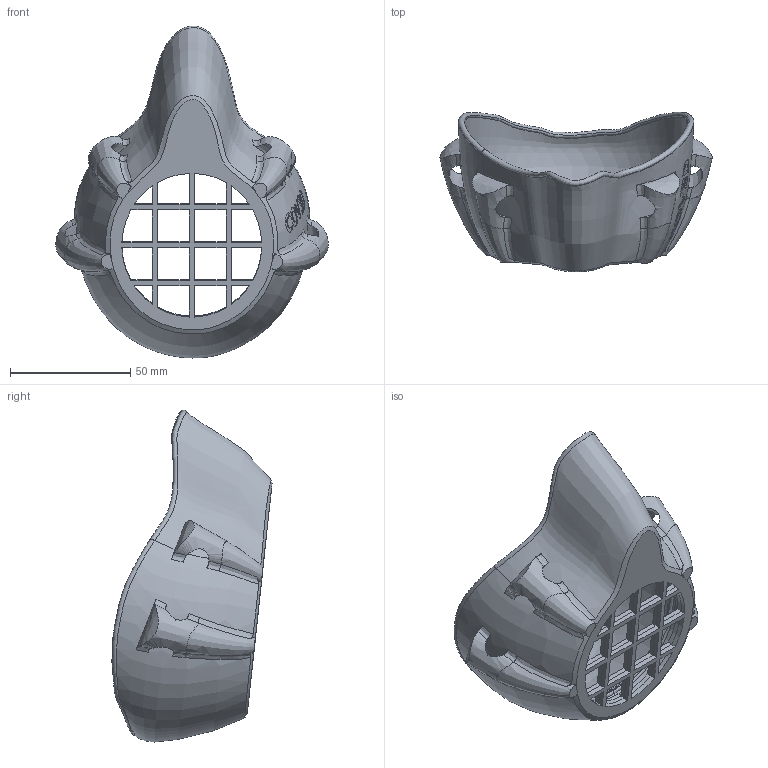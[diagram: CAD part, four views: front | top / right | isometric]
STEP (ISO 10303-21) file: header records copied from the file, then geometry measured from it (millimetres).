
FILE_DESCRIPTION(/* description */ (''),/* implementation_level */ '2;1');
FILE_NAME(/* name */ 'L-NARR~2',/* time_stamp */ '2020-04-10T21:40:41+03:00',/* author */ (''),/* organization */ (''),/* preprocessor_version */ 'ST-DEVELOPER v16.5',/* originating_system */ '',/* authorisation */ '');
FILE_SCHEMA (('AUTOMOTIVE_DESIGN'));
Length unit declared in the file: millimetre
Products named in the file (1): Document
Bounding box: 113.05 x 66.44 x 137.81 mm (x, y, z)
Volume: 54679 mm3; surface area: 47699.8 mm2
Topology: 1 solids, 1 shells, 312 faces, 797 edges, 489 vertices
Faces by surface type: bspline 209, plane 103
Entity records: 184217 total; most frequent: CARTESIAN_POINT 179229, ORIENTED_EDGE 1594, EDGE_CURVE 797, B_SPLINE_CURVE_WITH_KNOTS 625, VERTEX_POINT 489, EDGE_LOOP 354, ADVANCED_FACE 312, FACE_OUTER_BOUND 312
